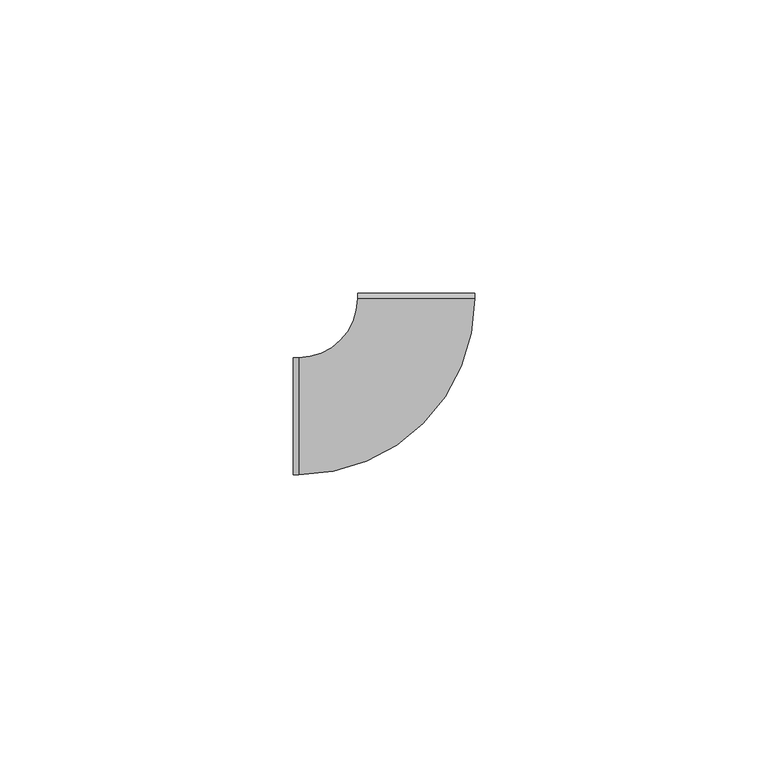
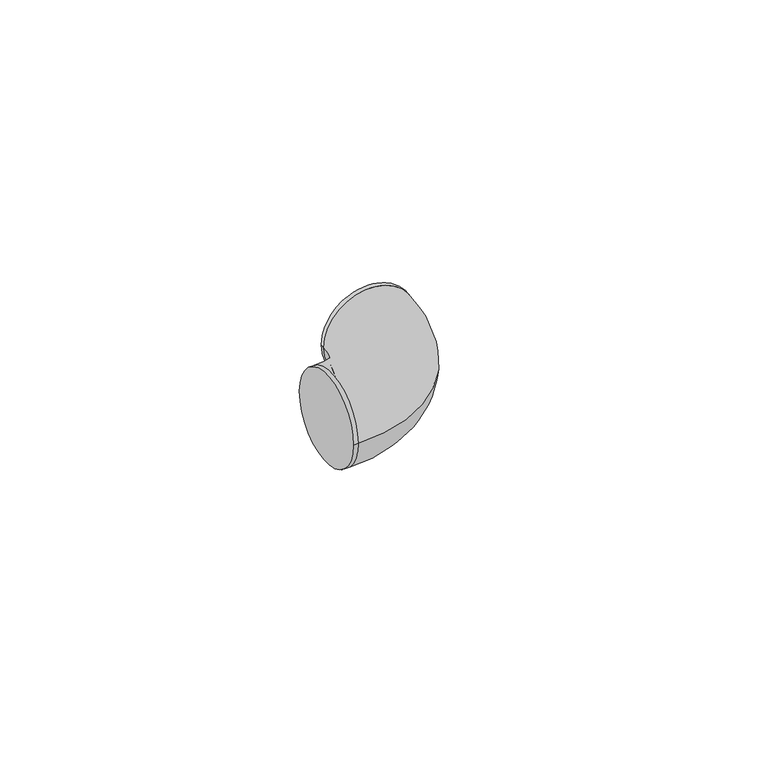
"""IFC4 building model written with IfcOpenShell, lengths in millimetres: cable carrier fitting geometry, ADSK_Поворот_Минимальный размер : Неспецифицируемый."""

import ifcopenshell
import ifcopenshell.guid

model = None  # the IFC model being written
_history = None  # IfcOwnerHistory: only IFC2X3 demands one
_inside = {}  # id of a spatial element -> (the spatial element, [elements in it])
_under = {}  # id of a project, library or spatial element -> (it, [spatial elements below it])
_declared = {}  # id of a project -> (the project, [libraries it declares])
_typed = {}  # id of a type object -> (the type object, [elements of that type])
_made_of = {}  # id of a material, layer set ... -> (it, [elements and type objects made of it])


def new_model(schema):
    """Start an empty IFC model of exactly this schema.

    Asked for "IFC4X3", IfcOpenShell would pick the latest addendum, in which some entities
    have other attributes; the version numbers below select the first issue.
    IFC2X3 requires an IfcOwnerHistory on every rooted entity: one is made here for all.
    """
    global model, _history
    if schema == "IFC4X3":
        model = ifcopenshell.file(schema_version=(4, 3, 0, 0))
    else:
        model = ifcopenshell.file(schema=schema)
    _inside.clear()
    _under.clear()
    _declared.clear()
    _typed.clear()
    _made_of.clear()
    _history = None
    if model.schema == "IFC2X3":
        org = make("IfcOrganization", Name="unknown")
        user = make(
            "IfcPersonAndOrganization",
            ThePerson=make("IfcPerson", FamilyName="unknown"),
            TheOrganization=org,
        )
        app = make(
            "IfcApplication",
            ApplicationDeveloper=org,
            Version="unknown",
            ApplicationFullName="unknown",
            ApplicationIdentifier="unknown",
        )
        _history = make(
            "IfcOwnerHistory",
            OwningUser=user,
            OwningApplication=app,
            ChangeAction="ADDED",
            CreationDate=0,
        )
    return model


def make(cls, **values):
    """One entity of the class cls with the attributes given. An attribute that is None is left unset."""
    return model.create_entity(
        cls, **{name: value for name, value in values.items() if value is not None}
    )


def rooted(cls, **values):
    """An entity with a GlobalId (a new one), such as an element, a storey or a relation."""
    return make(cls, GlobalId=ifcopenshell.guid.new(), OwnerHistory=_history, **values)


def si_unit(unit_type, name, prefix=None):
    """IfcSIUnit, for example si_unit("LENGTHUNIT", "METRE", prefix="MILLI")."""
    return make("IfcSIUnit", UnitType=unit_type, Prefix=prefix, Name=name)


def assignment(units):
    """IfcUnitAssignment: the units of a project."""
    return None if units is None else make("IfcUnitAssignment", Units=units)


def point(xyz):
    """IfcCartesianPoint."""
    return None if xyz is None else make("IfcCartesianPoint", Coordinates=xyz)


def direction(xyz):
    """IfcDirection."""
    return None if xyz is None else make("IfcDirection", DirectionRatios=xyz)


def frame(location, z_axis=None, x_axis=None):
    """IfcAxis2Placement3D, a coordinate frame: its origin and axes. An axis left out is left unset."""
    return make(
        "IfcAxis2Placement3D",
        Location=point(location),
        Axis=direction(z_axis),
        RefDirection=direction(x_axis),
    )


def origin():
    """The frame at (0, 0, 0) with its axes left unset."""
    return frame((0.0, 0.0, 0.0))


def place(relative_to, where):
    """IfcLocalPlacement: puts the frame where relative to a parent placement (None: the world)."""
    return make(
        "IfcLocalPlacement", PlacementRelTo=relative_to, RelativePlacement=where
    )


def context(
    kind, dimensions, precision=None, world=None, true_north=None, identifier=None
):
    """IfcGeometricRepresentationContext, for example the 3D "Model" context."""
    return make(
        "IfcGeometricRepresentationContext",
        ContextIdentifier=identifier,
        ContextType=kind,
        CoordinateSpaceDimension=dimensions,
        Precision=precision,
        WorldCoordinateSystem=world,
        TrueNorth=true_north,
    )


def project(units=None, contexts=None):
    """IfcProject with its units and contexts."""
    return rooted(
        "IfcProject",
        Name="project",
        RepresentationContexts=contexts,
        UnitsInContext=assignment(units),
    )


def spatial(cls, under=None, at=None, **own):
    """A site, building, storey or space (cls), placed at a placement, below another one or the project."""
    s = rooted(cls, ObjectPlacement=at, **own)
    if under is not None:
        _under.setdefault(under.id(), (under, []))[1].append(s)
    return s


def circle_curve(where, radius):
    """IfcCircle in the frame where."""
    return make("IfcCircle", Position=where, Radius=radius)


def ellipse_curve(where, semi_axis1, semi_axis2):
    """IfcEllipse in the frame where."""
    return make(
        "IfcEllipse", Position=where, SemiAxis1=semi_axis1, SemiAxis2=semi_axis2
    )


def trimmed(basis, trim1, trim2, sense, master):
    """IfcTrimmedCurve: the piece of a basis curve between two trims."""
    return make(
        "IfcTrimmedCurve",
        BasisCurve=basis,
        Trim1=trim1,
        Trim2=trim2,
        SenseAgreement=sense,
        MasterRepresentation=master,
    )


def shape(context_of_items, identifier, shape_type, items):
    """IfcShapeRepresentation: the items that make up one representation, for example the "Body"."""
    return make(
        "IfcShapeRepresentation",
        ContextOfItems=context_of_items,
        RepresentationIdentifier=identifier,
        RepresentationType=shape_type,
        Items=items,
    )


def source(mapping_origin, context_of_items, identifier, shape_type, items):
    """IfcRepresentationMap: a shape defined once, which mapped items show again and again."""
    return make(
        "IfcRepresentationMap",
        MappingOrigin=mapping_origin,
        MappedRepresentation=shape(context_of_items, identifier, shape_type, items),
    )


def transform(
    local_origin,
    x_axis=None,
    y_axis=None,
    z_axis=None,
    scale=None,
    scale2=None,
    scale3=None,
    uniform=True,
):
    """IfcCartesianTransformationOperator3D, or its non-uniform kind. x_axis, y_axis, z_axis: its Axis1, 2, 3."""
    if uniform:
        return make(
            "IfcCartesianTransformationOperator3D",
            Axis1=direction(x_axis),
            Axis2=direction(y_axis),
            LocalOrigin=point(local_origin),
            Scale=scale,
            Axis3=direction(z_axis),
        )
    return make(
        "IfcCartesianTransformationOperator3DnonUniform",
        Axis1=direction(x_axis),
        Axis2=direction(y_axis),
        LocalOrigin=point(local_origin),
        Scale=scale,
        Axis3=direction(z_axis),
        Scale2=scale2,
        Scale3=scale3,
    )


def mapped(mapping_source, mapping_target):
    """IfcMappedItem: shows the shape of a source again, moved by a transform."""
    return make(
        "IfcMappedItem", MappingSource=mapping_source, MappingTarget=mapping_target
    )


def made_of(thing, what):
    """Note that an element or type object is made of a material, layer set ...; save() writes the relation."""
    if what is not None:
        _made_of.setdefault(what.id(), (what, []))[1].append(thing)
    return thing


def element(
    cls,
    number,
    at=None,
    inside=None,
    cuts=None,
    type_object=None,
    material=None,
    context=None,
    identifier="Body",
    shape_type=None,
    held_by="IfcProductDefinitionShape",
    body=None,
    shapes=None,
    **own,
):
    """One element of the class cls, such as IfcWall. Its Tag is "e" and its number.

    at: its placement. inside: the storey or other place that contains it. cuts: it is an
    opening in that element (IfcRelVoidsElement). A single representation is given by context,
    identifier, shape_type and body (its items); several are given by shapes. held_by: the class
    of the entity that holds the representations. save() writes the other relations.
    """
    e = rooted(cls, Tag="e%d" % number, ObjectPlacement=at, **own)
    if body is not None:
        shapes = [shape(context, identifier, shape_type, body)]
    if shapes is not None:
        e.Representation = make(held_by, Representations=shapes)
    if inside is not None:
        _inside.setdefault(inside.id(), (inside, []))[1].append(e)
    if cuts is not None:
        rooted(
            "IfcRelVoidsElement", RelatingBuildingElement=cuts, RelatedOpeningElement=e
        )
    if type_object is not None:
        _typed.setdefault(type_object.id(), (type_object, []))[1].append(e)
    return made_of(e, material)


def aggregate(whole, parts):
    """IfcRelAggregates: a whole, such as a stair, and the parts it consists of."""
    return rooted("IfcRelAggregates", RelatingObject=whole, RelatedObjects=parts)


def save(model, path):
    """Write the relations noted so far, then the file.

    IfcRelAggregates (storeys below a building ...), IfcRelContainedInSpatialStructure (elements
    in a storey), IfcRelDefinesByType, IfcRelAssociatesMaterial and IfcRelDeclares: one each for
    every whole, place, type object, material and project.
    """
    for whole, parts in _under.values():
        aggregate(whole, parts)
    for where, things in _inside.values():
        rooted(
            "IfcRelContainedInSpatialStructure",
            RelatedElements=things,
            RelatingStructure=where,
        )
    for kind, things in _typed.values():
        rooted("IfcRelDefinesByType", RelatedObjects=things, RelatingType=kind)
    for what, things in _made_of.values():
        rooted("IfcRelAssociatesMaterial", RelatedObjects=things, RelatingMaterial=what)
    for by, libraries in _declared.values():
        rooted("IfcRelDeclares", RelatingContext=by, RelatedDefinitions=libraries)
    model.write(path)


def plane_surface(at):
    """IfcPlane: the flat surface through the origin of the frame at, square to its z axis."""
    return make("IfcPlane", Position=at)


def cylinder_surface(at, radius):
    """IfcCylindricalSurface: all points at the distance radius from the z axis of the frame at."""
    return make("IfcCylindricalSurface", Position=at, Radius=radius)


def revolved_surface(curve, axis_point, axis_direction):
    """IfcSurfaceOfRevolution: the curve turned about the line through axis_point along axis_direction."""
    return make(
        "IfcSurfaceOfRevolution",
        SweptCurve=make("IfcArbitraryOpenProfileDef", ProfileType="CURVE", Curve=curve),
        AxisPosition=make("IfcAxis1Placement", Location=point(axis_point), Axis=direction(axis_direction)),
    )


def advanced_brep(points, edges, surfaces, faces):
    """IfcAdvancedBrep: a solid bounded by faces that lie on surfaces and meet in shared edges.

    An edge is (start, end): straight between two places in points (the first is 0);
    or (start, end, curve); or (start, end, curve, False) where it runs against its curve.
    A face is (place in surfaces, loops), or (place, loops, False) where it looks against
    its surface's normal. A loop lists edges by number (the first is 1), with a minus sign
    where the edge is run from its end to its start. The first loop is the outer one.
    """
    corners = [point(p) for p in points]
    vertices = [make("IfcVertexPoint", VertexGeometry=c) for c in corners]
    made = []
    for start, end, *more in edges:
        made.append(
            make(
                "IfcEdgeCurve",
                EdgeStart=vertices[start],
                EdgeEnd=vertices[end],
                EdgeGeometry=more[0] if more else make("IfcPolyline", Points=[corners[start], corners[end]]),
                SameSense=more[1] if len(more) > 1 else True,
            )
        )
    hull = []
    for where, loops, *sense in faces:
        bounds = []
        for j, loop in enumerate(loops):
            ring = [make("IfcOrientedEdge", EdgeElement=made[abs(k) - 1], Orientation=k > 0) for k in loop]
            bounds.append(
                make(
                    "IfcFaceOuterBound" if j == 0 else "IfcFaceBound",
                    Bound=make("IfcEdgeLoop", EdgeList=ring),
                    Orientation=True,
                )
            )
        hull.append(make("IfcAdvancedFace", Bounds=bounds, FaceSurface=surfaces[where], SameSense=sense[0] if sense else True))
    return make("IfcAdvancedBrep", Outer=make("IfcClosedShell", CfsFaces=hull))


def cable_carrier_fitting_f64c7cd1(model_context):
    return source(origin(), model_context, "Body", "AdvancedBrep", [
        advanced_brep(
        [(-21.0015233, -10.0, 0.0), (-21.0015233, 10.0, 0.0), (-20.0015233, -10.0, 0.0), (-20.0015233, 10.0, 0.0), (-10.0015233, 20.0007616, 0.0), (9.9984766, 20.0022848, 0.0), (9.9984005, 21.0022848, 0.0), (-10.0015995, 21.0007616, 0.0)],
        [
            (0, 1, circle_curve(frame((-21.0015233, 0.0, 0.0), z_axis=(-1.0, -4.92260399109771e-12, 0.0), x_axis=(-4.92260399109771e-12, 1.0, 0.0)), 10.0)),
            (1, 0, circle_curve(frame((-21.0015233, 0.0, 0.0), z_axis=(-1.0, -4.92260399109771e-12, 0.0), x_axis=(-4.92260399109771e-12, 1.0, 0.0)), 10.0)),
            (0, 2),
            (2, 3, circle_curve(frame((-20.0015233, 0.0, 0.0), z_axis=(-1.0, -4.92260399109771e-12, 0.0), x_axis=(-4.92260399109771e-12, 1.0, 0.0)), 10.0)),
            (3, 1),
            (3, 2, circle_curve(frame((-20.0015233, 0.0, 0.0), z_axis=(-1.0, -4.92260399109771e-12, 0.0), x_axis=(-4.92260399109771e-12, 1.0, 0.0)), 10.0)),
            (4, 3, circle_curve(frame((-20.0015233, 20.0, 0.0), z_axis=(0.0, 0.0, -1.0), x_axis=(0.0, -1.0, 0.0)), 10.0)),
            (2, 5, circle_curve(frame((-20.0015233, 20.0, 0.0), z_axis=(0.0, 0.0, 1.0), x_axis=(0.0, -1.0, 0.0)), 30.0)),
            (5, 4, circle_curve(frame((-0.0015233, 20.0015232, 0.0), z_axis=(7.616060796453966e-05, -0.9999999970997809, 0.0), x_axis=(-0.9999999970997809, -7.616060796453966e-05, 0.0)), 10.0)),
            (4, 5, circle_curve(frame((-0.0015233, 20.0015232, 0.0), z_axis=(7.616060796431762e-05, -0.9999999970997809, 0.0), x_axis=(-0.9999999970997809, -7.616060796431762e-05, 0.0)), 10.0)),
            (6, 7, circle_curve(frame((-0.0015995, 21.0015232, 0.0), z_axis=(-7.616060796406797e-05, 0.9999999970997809, 0.0), x_axis=(-0.9999999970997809, -7.616060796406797e-05, 0.0)), 10.0)),
            (7, 6, circle_curve(frame((-0.0015995, 21.0015232, 0.0), z_axis=(-7.616060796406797e-05, 0.9999999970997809, 0.0), x_axis=(-0.9999999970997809, -7.616060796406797e-05, 0.0)), 10.0)),
            (5, 6),
            (7, 4),
        ],
        [
            plane_surface(frame((-21.0015233, 0.0, 0.0), z_axis=(-1.0, -4.92260399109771e-12, 0.0), x_axis=(0.0, 0.0, 1.0))),
            cylinder_surface(frame((-21.0015233, 0.0, 0.0), z_axis=(-1.0, -4.92260399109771e-12, 0.0), x_axis=(-4.92260399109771e-12, 1.0, 0.0)), 10.0),
            revolved_surface(trimmed(ellipse_curve(frame((-20.0015233, 0.0, 0.0), z_axis=(-1.0, 0.0, 0.0), x_axis=(0.0, 1.0, 0.0)), 10.0, 10.0), [point((-20.0015233, -10.0, 0.0))], [point((-20.0015233, 10.0, 0.0))], True, "CARTESIAN"), (-20.0015233, 20.0, 0.0), (0.0, 0.0, 1.0)),
            revolved_surface(trimmed(ellipse_curve(frame((-20.0015233, 0.0, 0.0), z_axis=(-1.0, 0.0, 0.0), x_axis=(0.0, 1.0, 0.0)), 10.0, 10.0), [point((-20.0015233, 10.0, 0.0))], [point((-20.0015233, -10.0, 0.0))], True, "CARTESIAN"), (-20.0015233, 20.0, 0.0), (0.0, 0.0, 1.0)),
            plane_surface(frame((-0.0015995, 21.0015232, 0.0), z_axis=(-7.616060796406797e-05, 0.9999999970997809, 0.0), x_axis=(0.0, 0.0, 1.0))),
            cylinder_surface(frame((-0.0015233, 20.0015232, 0.0), z_axis=(7.616060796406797e-05, -0.9999999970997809, 0.0), x_axis=(-0.9999999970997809, -7.616060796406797e-05, 0.0)), 10.0),
        ],
        [
            (0, [[1, 2]]),
            (1, [[-1, 3, 4, 5]]),
            (1, [[-2, -5, 6, -3]]),
            (2, [[7, -4, 8, 9]]),
            (3, [[-8, -6, -7, 10]]),
            (4, [[11, 12]]),
            (5, [[-9, 13, -12, 14]]),
            (5, [[-10, -14, -11, -13]]),
        ],
    ),
    ])


if __name__ == "__main__":
    model = new_model("IFC4")
    model_context = context("Model", 3, world=origin())
    ifc_project = project(units=[si_unit("LENGTHUNIT", "METRE", prefix="MILLI")], contexts=[model_context])
    site = spatial("IfcSite", under=ifc_project)
    building = spatial("IfcBuilding", under=site)
    placement = place(None, origin())
    cable_carrier_fitting_shape = cable_carrier_fitting_f64c7cd1(model_context)
    element("IfcCableCarrierFitting", 1, ObjectType="ADSK_Поворот_Минимальный размер : Неспецифицируемый", at=placement, inside=building, context=model_context, shape_type="MappedRepresentation", body=[
        mapped(cable_carrier_fitting_shape, transform((0.0, 0.0, 0.0), x_axis=(1.0, 0.0, 0.0), y_axis=(0.0, 1.0, 0.0), z_axis=(0.0, 0.0, 1.0))),
    ])
    save(model, "model.ifc")
